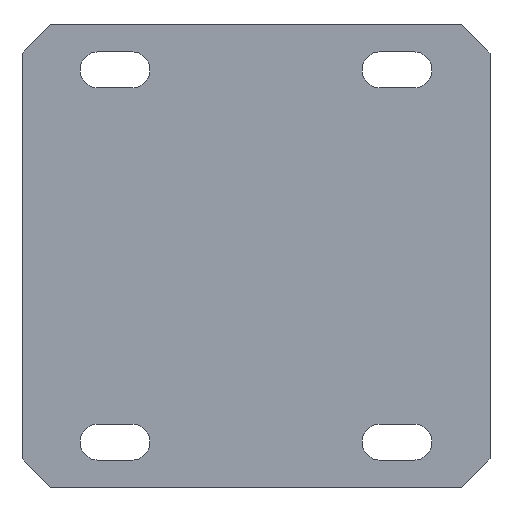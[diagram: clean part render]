
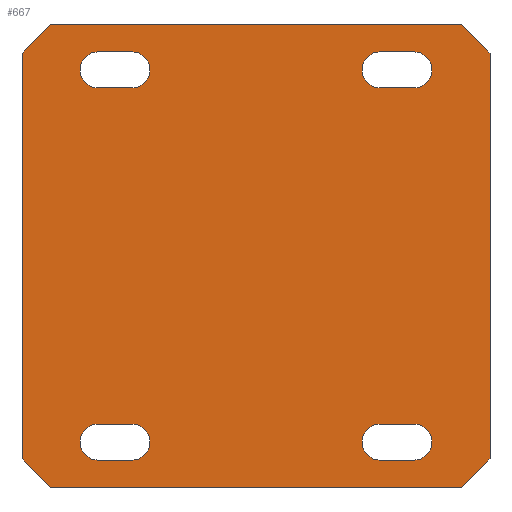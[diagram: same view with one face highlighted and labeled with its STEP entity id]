
A CAD part, front view. The second image highlights one B-rep face of the part: STEP entity #667.
In plain terms, the highlighted planar face has unit normal (0, -1, 0).
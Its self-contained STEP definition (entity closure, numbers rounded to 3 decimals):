
#488=AXIS2_PLACEMENT_3D('Plane Axis2P3D',#485,#486,#487) ;
#542=AXIS2_PLACEMENT_3D('Circle Axis2P3D',#540,#541,$) ;
#556=AXIS2_PLACEMENT_3D('Circle Axis2P3D',#554,#555,$) ;
#567=AXIS2_PLACEMENT_3D('Circle Axis2P3D',#565,#566,$) ;
#583=AXIS2_PLACEMENT_3D('Circle Axis2P3D',#581,#582,$) ;
#601=AXIS2_PLACEMENT_3D('Circle Axis2P3D',#599,#600,$) ;
#617=AXIS2_PLACEMENT_3D('Circle Axis2P3D',#615,#616,$) ;
#644=AXIS2_PLACEMENT_3D('Circle Axis2P3D',#642,#643,$) ;
#658=AXIS2_PLACEMENT_3D('Circle Axis2P3D',#656,#657,$) ;
#198=CARTESIAN_POINT('Vertex',(41.5,0.,36.)) ;
#201=CARTESIAN_POINT('Line Origine',(41.5,0.,0.)) ;
#205=CARTESIAN_POINT('Vertex',(41.5,0.,-36.)) ;
#292=CARTESIAN_POINT('Vertex',(-41.5,0.,-36.)) ;
#295=CARTESIAN_POINT('Line Origine',(-41.5,0.,0.)) ;
#299=CARTESIAN_POINT('Vertex',(-41.5,0.,36.)) ;
#459=CARTESIAN_POINT('Line Origine',(39.,0.,-38.5)) ;
#463=CARTESIAN_POINT('Vertex',(36.5,0.,-41.)) ;
#485=CARTESIAN_POINT('Axis2P3D Location',(0.,0.,0.)) ;
#490=CARTESIAN_POINT('Line Origine',(39.,0.,38.5)) ;
#494=CARTESIAN_POINT('Vertex',(36.5,0.,41.)) ;
#497=CARTESIAN_POINT('Line Origine',(0.,0.,41.)) ;
#501=CARTESIAN_POINT('Vertex',(-36.5,0.,41.)) ;
#504=CARTESIAN_POINT('Line Origine',(-39.,0.,38.5)) ;
#509=CARTESIAN_POINT('Line Origine',(-39.,0.,-38.5)) ;
#513=CARTESIAN_POINT('Vertex',(-36.5,0.,-41.)) ;
#516=CARTESIAN_POINT('Line Origine',(0.,0.,-41.)) ;
#531=CARTESIAN_POINT('Line Origine',(-25.,0.,-36.2)) ;
#535=CARTESIAN_POINT('Vertex',(-28.,0.,-36.2)) ;
#537=CARTESIAN_POINT('Vertex',(-22.,0.,-36.2)) ;
#540=CARTESIAN_POINT('Axis2P3D Location',(-28.,0.,-33.)) ;
#544=CARTESIAN_POINT('Vertex',(-28.,0.,-29.8)) ;
#547=CARTESIAN_POINT('Line Origine',(-25.,0.,-29.8)) ;
#551=CARTESIAN_POINT('Vertex',(-22.,0.,-29.8)) ;
#554=CARTESIAN_POINT('Axis2P3D Location',(-22.,0.,-33.)) ;
#565=CARTESIAN_POINT('Axis2P3D Location',(22.,0.,-33.)) ;
#569=CARTESIAN_POINT('Vertex',(22.,0.,-36.2)) ;
#571=CARTESIAN_POINT('Vertex',(22.,0.,-29.8)) ;
#574=CARTESIAN_POINT('Line Origine',(25.,0.,-29.8)) ;
#578=CARTESIAN_POINT('Vertex',(28.,0.,-29.8)) ;
#581=CARTESIAN_POINT('Axis2P3D Location',(28.,0.,-33.)) ;
#585=CARTESIAN_POINT('Vertex',(28.,0.,-36.2)) ;
#588=CARTESIAN_POINT('Line Origine',(25.,0.,-36.2)) ;
#599=CARTESIAN_POINT('Axis2P3D Location',(-22.,0.,33.)) ;
#603=CARTESIAN_POINT('Vertex',(-22.,0.,36.2)) ;
#605=CARTESIAN_POINT('Vertex',(-22.,0.,29.8)) ;
#608=CARTESIAN_POINT('Line Origine',(-25.,0.,29.8)) ;
#612=CARTESIAN_POINT('Vertex',(-28.,0.,29.8)) ;
#615=CARTESIAN_POINT('Axis2P3D Location',(-28.,0.,33.)) ;
#619=CARTESIAN_POINT('Vertex',(-28.,0.,36.2)) ;
#622=CARTESIAN_POINT('Line Origine',(-25.,0.,36.2)) ;
#633=CARTESIAN_POINT('Line Origine',(25.,0.,29.8)) ;
#637=CARTESIAN_POINT('Vertex',(22.,0.,29.8)) ;
#639=CARTESIAN_POINT('Vertex',(28.,0.,29.8)) ;
#642=CARTESIAN_POINT('Axis2P3D Location',(22.,0.,33.)) ;
#646=CARTESIAN_POINT('Vertex',(22.,0.,36.2)) ;
#649=CARTESIAN_POINT('Line Origine',(25.,0.,36.2)) ;
#653=CARTESIAN_POINT('Vertex',(28.,0.,36.2)) ;
#656=CARTESIAN_POINT('Axis2P3D Location',(28.,0.,33.)) ;
#202=DIRECTION('Vector Direction',(0.,0.,-1.)) ;
#296=DIRECTION('Vector Direction',(0.,0.,1.)) ;
#460=DIRECTION('Vector Direction',(0.707,0.,0.707)) ;
#486=DIRECTION('Axis2P3D Direction',(0.,1.,-0.)) ;
#487=DIRECTION('Axis2P3D XDirection',(0.,0.,1.)) ;
#491=DIRECTION('Vector Direction',(-0.707,0.,0.707)) ;
#498=DIRECTION('Vector Direction',(-1.,0.,0.)) ;
#505=DIRECTION('Vector Direction',(-0.707,0.,-0.707)) ;
#510=DIRECTION('Vector Direction',(0.707,0.,-0.707)) ;
#517=DIRECTION('Vector Direction',(-1.,0.,0.)) ;
#532=DIRECTION('Vector Direction',(1.,0.,0.)) ;
#541=DIRECTION('Axis2P3D Direction',(0.,1.,-0.)) ;
#548=DIRECTION('Vector Direction',(1.,0.,0.)) ;
#555=DIRECTION('Axis2P3D Direction',(0.,1.,-0.)) ;
#566=DIRECTION('Axis2P3D Direction',(0.,1.,-0.)) ;
#575=DIRECTION('Vector Direction',(1.,0.,0.)) ;
#582=DIRECTION('Axis2P3D Direction',(0.,1.,-0.)) ;
#589=DIRECTION('Vector Direction',(1.,0.,0.)) ;
#600=DIRECTION('Axis2P3D Direction',(0.,1.,-0.)) ;
#609=DIRECTION('Vector Direction',(1.,0.,0.)) ;
#616=DIRECTION('Axis2P3D Direction',(0.,1.,-0.)) ;
#623=DIRECTION('Vector Direction',(1.,0.,0.)) ;
#634=DIRECTION('Vector Direction',(1.,0.,0.)) ;
#643=DIRECTION('Axis2P3D Direction',(0.,1.,-0.)) ;
#650=DIRECTION('Vector Direction',(1.,0.,0.)) ;
#657=DIRECTION('Axis2P3D Direction',(0.,1.,-0.)) ;
#203=VECTOR('Line Direction',#202,1.) ;
#297=VECTOR('Line Direction',#296,1.) ;
#461=VECTOR('Line Direction',#460,1.) ;
#492=VECTOR('Line Direction',#491,1.) ;
#499=VECTOR('Line Direction',#498,1.) ;
#506=VECTOR('Line Direction',#505,1.) ;
#511=VECTOR('Line Direction',#510,1.) ;
#518=VECTOR('Line Direction',#517,1.) ;
#533=VECTOR('Line Direction',#532,1.) ;
#549=VECTOR('Line Direction',#548,1.) ;
#576=VECTOR('Line Direction',#575,1.) ;
#590=VECTOR('Line Direction',#589,1.) ;
#610=VECTOR('Line Direction',#609,1.) ;
#624=VECTOR('Line Direction',#623,1.) ;
#635=VECTOR('Line Direction',#634,1.) ;
#651=VECTOR('Line Direction',#650,1.) ;
#522=ORIENTED_EDGE('',*,*,#207,.F.) ;
#523=ORIENTED_EDGE('',*,*,#496,.T.) ;
#524=ORIENTED_EDGE('',*,*,#503,.T.) ;
#525=ORIENTED_EDGE('',*,*,#508,.T.) ;
#526=ORIENTED_EDGE('',*,*,#301,.F.) ;
#527=ORIENTED_EDGE('',*,*,#515,.T.) ;
#528=ORIENTED_EDGE('',*,*,#520,.F.) ;
#529=ORIENTED_EDGE('',*,*,#465,.T.) ;
#560=ORIENTED_EDGE('',*,*,#539,.F.) ;
#561=ORIENTED_EDGE('',*,*,#546,.T.) ;
#562=ORIENTED_EDGE('',*,*,#553,.T.) ;
#563=ORIENTED_EDGE('',*,*,#558,.T.) ;
#594=ORIENTED_EDGE('',*,*,#573,.T.) ;
#595=ORIENTED_EDGE('',*,*,#580,.T.) ;
#596=ORIENTED_EDGE('',*,*,#587,.T.) ;
#597=ORIENTED_EDGE('',*,*,#592,.F.) ;
#628=ORIENTED_EDGE('',*,*,#607,.T.) ;
#629=ORIENTED_EDGE('',*,*,#614,.F.) ;
#630=ORIENTED_EDGE('',*,*,#621,.T.) ;
#631=ORIENTED_EDGE('',*,*,#626,.T.) ;
#662=ORIENTED_EDGE('',*,*,#641,.F.) ;
#663=ORIENTED_EDGE('',*,*,#648,.T.) ;
#664=ORIENTED_EDGE('',*,*,#655,.T.) ;
#665=ORIENTED_EDGE('',*,*,#660,.T.) ;
#564=FACE_BOUND('',#559,.T.) ;
#598=FACE_BOUND('',#593,.T.) ;
#632=FACE_BOUND('',#627,.T.) ;
#666=FACE_BOUND('',#661,.T.) ;
#667=ADVANCED_FACE('M6 \X2\87BA7EB95B54\X0\1',(#530,#564,#598,#632,#666),#489,.F.) ;
#543=CIRCLE('generated circle',#542,3.2) ;
#557=CIRCLE('generated circle',#556,3.2) ;
#568=CIRCLE('generated circle',#567,3.2) ;
#584=CIRCLE('generated circle',#583,3.2) ;
#602=CIRCLE('generated circle',#601,3.2) ;
#618=CIRCLE('generated circle',#617,3.2) ;
#645=CIRCLE('generated circle',#644,3.2) ;
#659=CIRCLE('generated circle',#658,3.2) ;
#207=EDGE_CURVE('',#199,#206,#204,.T.) ;
#301=EDGE_CURVE('',#293,#300,#298,.T.) ;
#465=EDGE_CURVE('',#464,#206,#462,.T.) ;
#496=EDGE_CURVE('',#199,#495,#493,.T.) ;
#503=EDGE_CURVE('',#495,#502,#500,.T.) ;
#508=EDGE_CURVE('',#502,#300,#507,.T.) ;
#515=EDGE_CURVE('',#293,#514,#512,.T.) ;
#520=EDGE_CURVE('',#464,#514,#519,.T.) ;
#539=EDGE_CURVE('',#536,#538,#534,.T.) ;
#546=EDGE_CURVE('',#536,#545,#543,.T.) ;
#553=EDGE_CURVE('',#545,#552,#550,.T.) ;
#558=EDGE_CURVE('',#552,#538,#557,.T.) ;
#573=EDGE_CURVE('',#570,#572,#568,.T.) ;
#580=EDGE_CURVE('',#572,#579,#577,.T.) ;
#587=EDGE_CURVE('',#579,#586,#584,.T.) ;
#592=EDGE_CURVE('',#570,#586,#591,.T.) ;
#607=EDGE_CURVE('',#604,#606,#602,.T.) ;
#614=EDGE_CURVE('',#613,#606,#611,.T.) ;
#621=EDGE_CURVE('',#613,#620,#618,.T.) ;
#626=EDGE_CURVE('',#620,#604,#625,.T.) ;
#641=EDGE_CURVE('',#638,#640,#636,.T.) ;
#648=EDGE_CURVE('',#638,#647,#645,.T.) ;
#655=EDGE_CURVE('',#647,#654,#652,.T.) ;
#660=EDGE_CURVE('',#654,#640,#659,.T.) ;
#521=EDGE_LOOP('',(#522,#523,#524,#525,#526,#527,#528,#529)) ;
#559=EDGE_LOOP('',(#560,#561,#562,#563)) ;
#593=EDGE_LOOP('',(#594,#595,#596,#597)) ;
#627=EDGE_LOOP('',(#628,#629,#630,#631)) ;
#661=EDGE_LOOP('',(#662,#663,#664,#665)) ;
#530=FACE_OUTER_BOUND('',#521,.T.) ;
#204=LINE('Line',#201,#203) ;
#298=LINE('Line',#295,#297) ;
#462=LINE('Line',#459,#461) ;
#493=LINE('Line',#490,#492) ;
#500=LINE('Line',#497,#499) ;
#507=LINE('Line',#504,#506) ;
#512=LINE('Line',#509,#511) ;
#519=LINE('Line',#516,#518) ;
#534=LINE('Line',#531,#533) ;
#550=LINE('Line',#547,#549) ;
#577=LINE('Line',#574,#576) ;
#591=LINE('Line',#588,#590) ;
#611=LINE('Line',#608,#610) ;
#625=LINE('Line',#622,#624) ;
#636=LINE('Line',#633,#635) ;
#652=LINE('Line',#649,#651) ;
#489=PLANE('',#488) ;
#199=VERTEX_POINT('',#198) ;
#206=VERTEX_POINT('',#205) ;
#293=VERTEX_POINT('',#292) ;
#300=VERTEX_POINT('',#299) ;
#464=VERTEX_POINT('',#463) ;
#495=VERTEX_POINT('',#494) ;
#502=VERTEX_POINT('',#501) ;
#514=VERTEX_POINT('',#513) ;
#536=VERTEX_POINT('',#535) ;
#538=VERTEX_POINT('',#537) ;
#545=VERTEX_POINT('',#544) ;
#552=VERTEX_POINT('',#551) ;
#570=VERTEX_POINT('',#569) ;
#572=VERTEX_POINT('',#571) ;
#579=VERTEX_POINT('',#578) ;
#586=VERTEX_POINT('',#585) ;
#604=VERTEX_POINT('',#603) ;
#606=VERTEX_POINT('',#605) ;
#613=VERTEX_POINT('',#612) ;
#620=VERTEX_POINT('',#619) ;
#638=VERTEX_POINT('',#637) ;
#640=VERTEX_POINT('',#639) ;
#647=VERTEX_POINT('',#646) ;
#654=VERTEX_POINT('',#653) ;
